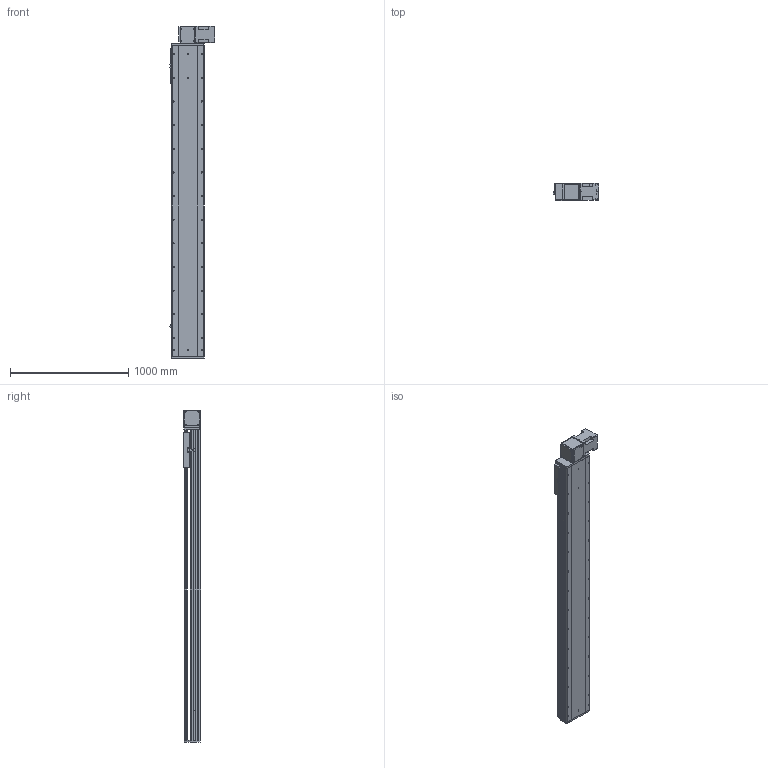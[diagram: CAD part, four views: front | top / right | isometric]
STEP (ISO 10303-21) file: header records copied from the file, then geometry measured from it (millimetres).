
FILE_DESCRIPTION (( 'STEP AP214' ), '1' );
FILE_NAME ('RTB28S-XX-2200-BL-M100-XX-C4.STEP', '2025-12-22T02:28:41', ( '' ), ( '' ), 'SwSTEP 2.0', 'SolidWorks 2018', '' );
FILE_SCHEMA (( 'AUTOMOTIVE_DESIGN' ));
Length unit declared in the file: millimetre
Products named in the file (4): RTB28S-GY-004^RTB28S-XX-XX-BL-M100-XX-C4; RTB28S-GY-008^RTB28S-XX-XX-BL-M100-XX-C4; RTB28S-XX-2200-BL-M100-XX-C4; RTB28S-GY-011^RTB28S-XX-XX-BL-M100-XX-C4
Assembly tree (3 placements, depth 2):
  RTB28S-XX-2200-BL-M100-XX-C4
    RTB28S-GY-011^RTB28S-XX-XX-BL-M100-XX-C4
    RTB28S-GY-004^RTB28S-XX-XX-BL-M100-XX-C4
    RTB28S-GY-008^RTB28S-XX-XX-BL-M100-XX-C4
Bounding box: 380.7 x 145 x 2807 mm (x, y, z)
Volume: 48509391.9 mm3; surface area: 4567290 mm2
Topology: 3 solids, 4 shells, 848 faces, 2268 edges, 1448 vertices
Faces by surface type: cylinder 407, plane 357, cone 80, torus 4
Entity records: 32429 total; most frequent: CARTESIAN_POINT 5902, DIRECTION 4818, ORIENTED_EDGE 4472, EDGE_CURVE 2236, AXIS2_PLACEMENT_3D 1764, VERTEX_POINT 1448, VECTOR 1290, LINE 1290
